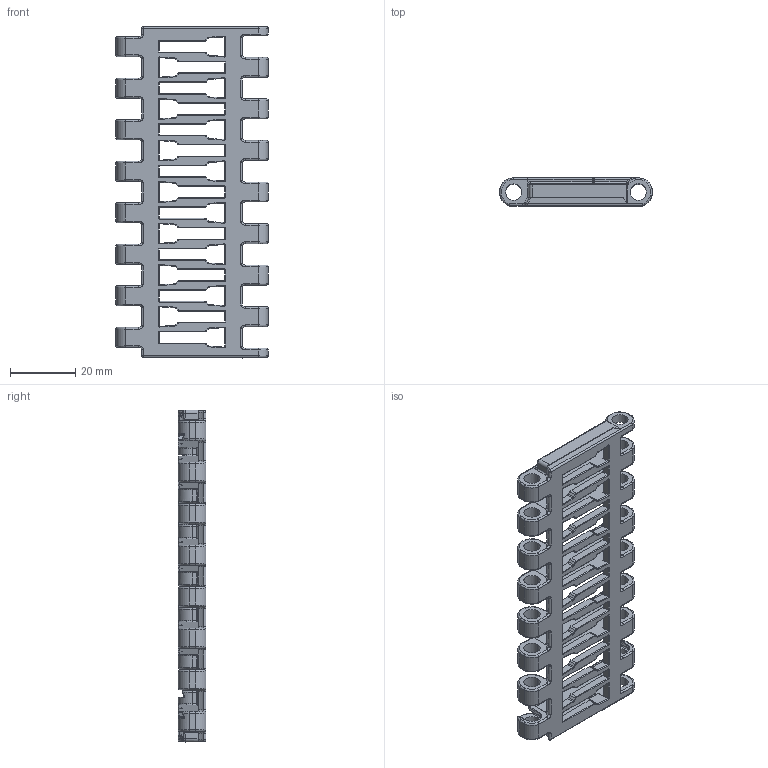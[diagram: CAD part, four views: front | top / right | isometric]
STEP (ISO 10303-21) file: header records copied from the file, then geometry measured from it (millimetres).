
FILE_DESCRIPTION((''),'2;1');
FILE_NAME('P396','2016-06-10T',('jas'),(''),'CREO PARAMETRIC BY PTC INC, 2016050','CREO PARAMETRIC BY PTC INC, 2016050','');
FILE_SCHEMA(('AUTOMOTIVE_DESIGN { 1 0 10303 214 1 1 1 1 }'));
Products named in the file (1): P396
Bounding box: 46.58 x 8.5 x 101.5 mm (x, y, z)
Volume: 11811.2 mm3; surface area: 14459.3 mm2
Topology: 1 solids, 1 shells, 2806 faces, 7434 edges, 4693 vertices
Faces by surface type: plane 1660, cylinder 657, torus 273, bspline 187, sphere 25, cone 4
Entity records: 100507 total; most frequent: CARTESIAN_POINT 31493, ORIENTED_EDGE 14868, DIRECTION 13455, EDGE_CURVE 7434, VECTOR 5369, LINE 5369, VERTEX_POINT 4693, AXIS2_PLACEMENT_3D 4043
